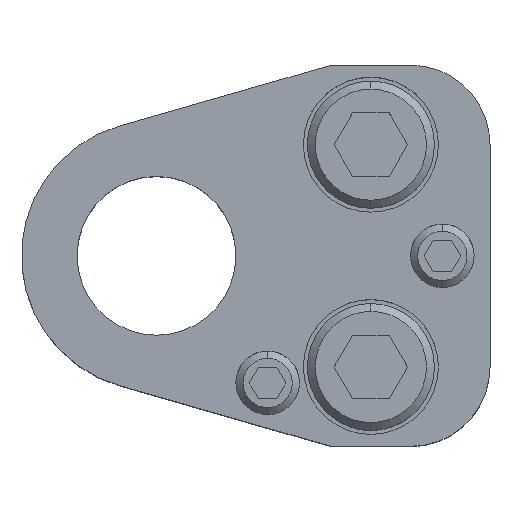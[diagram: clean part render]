
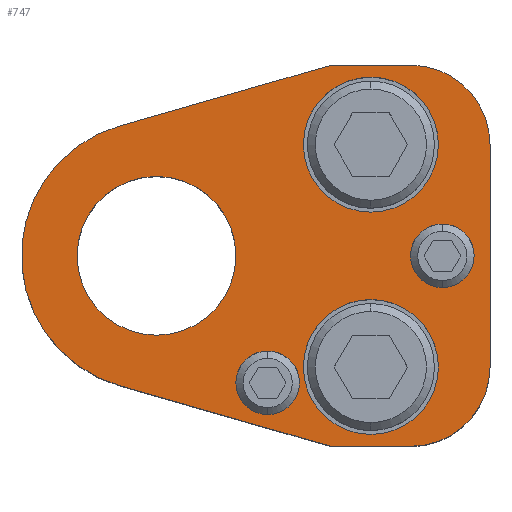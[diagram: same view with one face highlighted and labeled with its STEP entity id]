
A CAD part, top view. The second image highlights one B-rep face of the part: STEP entity #747.
In plain terms, the highlighted planar face has unit normal (0, 0, 1).
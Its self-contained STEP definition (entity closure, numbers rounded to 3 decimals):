
#429=LINE('',#3637,#593);
#433=LINE('',#3646,#597);
#437=LINE('',#3658,#601);
#441=LINE('',#3670,#605);
#444=LINE('',#3676,#608);
#593=VECTOR('',#2930,1.);
#597=VECTOR('',#2936,1.);
#601=VECTOR('',#2948,1.);
#605=VECTOR('',#2960,1.);
#608=VECTOR('',#2965,1.);
#747=ADVANCED_FACE('',(#853,#854,#855,#856,#857,#858),#823,.T.);
#823=PLANE('',#2443);
#853=FACE_BOUND('',#997,.T.);
#854=FACE_BOUND('',#998,.T.);
#855=FACE_BOUND('',#999,.T.);
#856=FACE_BOUND('',#1000,.T.);
#857=FACE_BOUND('',#1001,.T.);
#858=FACE_BOUND('',#1002,.T.);
#997=EDGE_LOOP('',(#1511,#1512,#1513,#1514,#1515,#1516,#1517,#1518));
#998=EDGE_LOOP('',(#1519,#1520));
#999=EDGE_LOOP('',(#1521,#1522));
#1000=EDGE_LOOP('',(#1523,#1524));
#1001=EDGE_LOOP('',(#1525,#1526));
#1002=EDGE_LOOP('',(#1527,#1528));
#1511=ORIENTED_EDGE('',*,*,#2004,.T.);
#1512=ORIENTED_EDGE('',*,*,#2008,.T.);
#1513=ORIENTED_EDGE('',*,*,#2011,.T.);
#1514=ORIENTED_EDGE('',*,*,#2014,.T.);
#1515=ORIENTED_EDGE('',*,*,#2017,.T.);
#1516=ORIENTED_EDGE('',*,*,#2020,.T.);
#1517=ORIENTED_EDGE('',*,*,#2023,.T.);
#1518=ORIENTED_EDGE('',*,*,#2026,.T.);
#1519=ORIENTED_EDGE('',*,*,#2061,.F.);
#1520=ORIENTED_EDGE('',*,*,#2062,.F.);
#1521=ORIENTED_EDGE('',*,*,#2063,.F.);
#1522=ORIENTED_EDGE('',*,*,#2064,.F.);
#1523=ORIENTED_EDGE('',*,*,#2051,.F.);
#1524=ORIENTED_EDGE('',*,*,#2047,.F.);
#1525=ORIENTED_EDGE('',*,*,#2045,.F.);
#1526=ORIENTED_EDGE('',*,*,#2041,.F.);
#1527=ORIENTED_EDGE('',*,*,#2065,.T.);
#1528=ORIENTED_EDGE('',*,*,#2066,.T.);
#1744=VERTEX_POINT('',#3636);
#1745=VERTEX_POINT('',#3638);
#1748=VERTEX_POINT('',#3645);
#1750=VERTEX_POINT('',#3651);
#1752=VERTEX_POINT('',#3657);
#1754=VERTEX_POINT('',#3663);
#1756=VERTEX_POINT('',#3669);
#1758=VERTEX_POINT('',#3675);
#1771=VERTEX_POINT('',#3712);
#1772=VERTEX_POINT('',#3713);
#1775=VERTEX_POINT('',#3724);
#1776=VERTEX_POINT('',#3725);
#1783=VERTEX_POINT('',#3752);
#1784=VERTEX_POINT('',#3753);
#1785=VERTEX_POINT('',#3756);
#1786=VERTEX_POINT('',#3757);
#1787=VERTEX_POINT('',#3760);
#1788=VERTEX_POINT('',#3761);
#2004=EDGE_CURVE('',#1745,#1744,#429,.T.);
#2008=EDGE_CURVE('',#1744,#1748,#433,.T.);
#2011=EDGE_CURVE('',#1748,#1750,#2171,.T.);
#2014=EDGE_CURVE('',#1750,#1752,#437,.T.);
#2017=EDGE_CURVE('',#1752,#1754,#2173,.T.);
#2020=EDGE_CURVE('',#1754,#1756,#441,.T.);
#2023=EDGE_CURVE('',#1756,#1758,#444,.T.);
#2026=EDGE_CURVE('',#1758,#1745,#2176,.T.);
#2041=EDGE_CURVE('',#1771,#1772,#2189,.T.);
#2045=EDGE_CURVE('',#1772,#1771,#2191,.T.);
#2047=EDGE_CURVE('',#1775,#1776,#2193,.T.);
#2051=EDGE_CURVE('',#1776,#1775,#2195,.T.);
#2061=EDGE_CURVE('',#1783,#1784,#2201,.T.);
#2062=EDGE_CURVE('',#1784,#1783,#2202,.T.);
#2063=EDGE_CURVE('',#1785,#1786,#2203,.T.);
#2064=EDGE_CURVE('',#1786,#1785,#2204,.T.);
#2065=EDGE_CURVE('',#1787,#1788,#2205,.T.);
#2066=EDGE_CURVE('',#1788,#1787,#2206,.T.);
#2171=CIRCLE('',#2390,10.);
#2173=CIRCLE('',#2394,10.);
#2176=CIRCLE('',#2400,17.);
#2189=CIRCLE('',#2417,4.);
#2191=CIRCLE('',#2420,4.);
#2193=CIRCLE('',#2423,4.);
#2195=CIRCLE('',#2426,4.);
#2201=CIRCLE('',#2437,8.5);
#2202=CIRCLE('',#2438,8.5);
#2203=CIRCLE('',#2439,8.5);
#2204=CIRCLE('',#2440,8.5);
#2205=CIRCLE('',#2441,10.);
#2206=CIRCLE('',#2442,10.);
#2390=AXIS2_PLACEMENT_3D('',#3652,#2941,#2942);
#2394=AXIS2_PLACEMENT_3D('',#3664,#2953,#2954);
#2400=AXIS2_PLACEMENT_3D('',#3680,#2971,#2972);
#2417=AXIS2_PLACEMENT_3D('',#3711,#3007,#3008);
#2420=AXIS2_PLACEMENT_3D('',#3720,#3015,#3016);
#2423=AXIS2_PLACEMENT_3D('',#3723,#3021,#3022);
#2426=AXIS2_PLACEMENT_3D('',#3732,#3029,#3030);
#2437=AXIS2_PLACEMENT_3D('',#3751,#3055,#3056);
#2438=AXIS2_PLACEMENT_3D('',#3754,#3057,#3058);
#2439=AXIS2_PLACEMENT_3D('',#3755,#3059,#3060);
#2440=AXIS2_PLACEMENT_3D('',#3758,#3061,#3062);
#2441=AXIS2_PLACEMENT_3D('',#3759,#3063,#3064);
#2442=AXIS2_PLACEMENT_3D('',#3762,#3065,#3066);
#2443=AXIS2_PLACEMENT_3D('',#3763,#3067,#3068);
#2930=DIRECTION('',(0.961,-0.276,0.));
#2936=DIRECTION('',(1.,0.,0.));
#2941=DIRECTION('',(0.,0.,1.));
#2942=DIRECTION('',(-0.707,0.707,0.));
#2948=DIRECTION('',(0.,1.,0.));
#2953=DIRECTION('',(0.,0.,1.));
#2954=DIRECTION('',(-0.707,-0.707,0.));
#2960=DIRECTION('',(-1.,0.,0.));
#2965=DIRECTION('',(-0.961,-0.276,0.));
#2971=DIRECTION('',(0.,0.,1.));
#2972=DIRECTION('',(1.,0.,0.));
#3007=DIRECTION('',(0.,0.,1.));
#3008=DIRECTION('',(-1.,0.,0.));
#3015=DIRECTION('',(0.,0.,1.));
#3016=DIRECTION('',(1.,0.,0.));
#3021=DIRECTION('',(0.,0.,1.));
#3022=DIRECTION('',(-1.,0.,0.));
#3029=DIRECTION('',(0.,0.,1.));
#3030=DIRECTION('',(1.,0.,0.));
#3055=DIRECTION('',(0.,0.,1.));
#3056=DIRECTION('',(1.,0.,0.));
#3057=DIRECTION('',(0.,0.,1.));
#3058=DIRECTION('',(-1.,0.,0.));
#3059=DIRECTION('',(0.,0.,1.));
#3060=DIRECTION('',(1.,0.,0.));
#3061=DIRECTION('',(0.,0.,1.));
#3062=DIRECTION('',(-1.,0.,0.));
#3063=DIRECTION('',(0.,0.,-1.));
#3064=DIRECTION('',(-1.,0.,0.));
#3065=DIRECTION('',(0.,0.,-1.));
#3066=DIRECTION('',(1.,0.,0.));
#3067=DIRECTION('',(0.,0.,1.));
#3068=DIRECTION('',(0.961,-0.276,0.));
#3636=CARTESIAN_POINT('',(22.,-24.,30.));
#3637=CARTESIAN_POINT('',(22.,-24.,30.));
#3638=CARTESIAN_POINT('',(-4.69,-16.34,30.));
#3645=CARTESIAN_POINT('',(32.,-24.,30.));
#3646=CARTESIAN_POINT('',(22.,-24.,30.));
#3651=CARTESIAN_POINT('',(42.,-14.,30.));
#3652=CARTESIAN_POINT('',(32.,-14.,30.));
#3657=CARTESIAN_POINT('',(42.,14.,30.));
#3658=CARTESIAN_POINT('',(42.,14.,30.));
#3663=CARTESIAN_POINT('',(32.,24.,30.));
#3664=CARTESIAN_POINT('',(32.,14.,30.));
#3669=CARTESIAN_POINT('',(22.,24.,30.));
#3670=CARTESIAN_POINT('',(22.,24.,30.));
#3675=CARTESIAN_POINT('',(-4.69,16.34,30.));
#3676=CARTESIAN_POINT('',(22.,24.,30.));
#3680=CARTESIAN_POINT('',(0.,0.,30.));
#3711=CARTESIAN_POINT('',(14.,-16.,30.));
#3712=CARTESIAN_POINT('',(14.,-20.,30.));
#3713=CARTESIAN_POINT('',(14.,-12.,30.));
#3720=CARTESIAN_POINT('',(14.,-16.,30.));
#3723=CARTESIAN_POINT('',(36.,0.,30.));
#3724=CARTESIAN_POINT('',(36.,-4.,30.));
#3725=CARTESIAN_POINT('',(36.,4.,30.));
#3732=CARTESIAN_POINT('',(36.,0.,30.));
#3751=CARTESIAN_POINT('',(27.,14.,30.));
#3752=CARTESIAN_POINT('',(27.,22.5,30.));
#3753=CARTESIAN_POINT('',(27.,5.5,30.));
#3754=CARTESIAN_POINT('',(27.,14.,30.));
#3755=CARTESIAN_POINT('',(27.,-14.,30.));
#3756=CARTESIAN_POINT('',(27.,-5.5,30.));
#3757=CARTESIAN_POINT('',(27.,-22.5,30.));
#3758=CARTESIAN_POINT('',(27.,-14.,30.));
#3759=CARTESIAN_POINT('',(0.,0.,30.));
#3760=CARTESIAN_POINT('',(0.,10.,30.));
#3761=CARTESIAN_POINT('',(0.,-10.,30.));
#3762=CARTESIAN_POINT('',(0.,0.,30.));
#3763=CARTESIAN_POINT('',(-4.69,-16.34,30.));
